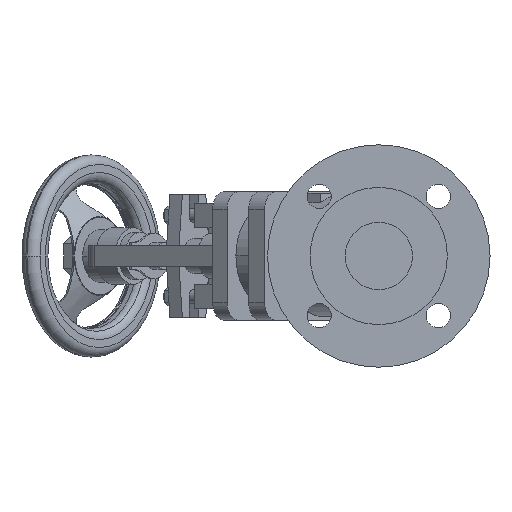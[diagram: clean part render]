
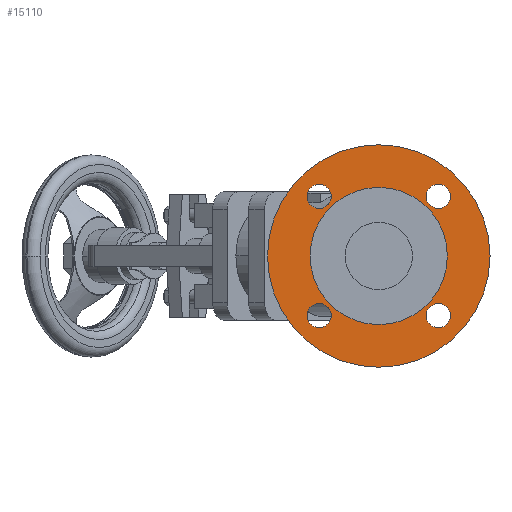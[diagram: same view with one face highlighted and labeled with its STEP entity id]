
A CAD part, left-side view. The second image highlights one B-rep face of the part: STEP entity #15110.
In plain terms, the highlighted planar face has unit normal (-1, 0, 0).
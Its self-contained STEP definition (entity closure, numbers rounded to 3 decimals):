
#3550=CARTESIAN_POINT('',(3.78,-50.89,0.));
#3560=VERTEX_POINT('',#3550);
#3590=CARTESIAN_POINT('',(3.78,0.,0.));
#3600=DIRECTION('',(-1.,0.,0.));
#3610=DIRECTION('',(0.,1.,0.));
#3620=AXIS2_PLACEMENT_3D('',#3590,#3600,#3610);
#3630=CIRCLE('',#3620,50.89);
#3640=CARTESIAN_POINT('',(3.78,50.89,0.));
#3650=VERTEX_POINT('',#3640);
#3660=EDGE_CURVE('',#3650,#3560,#3630,.T.);
#6250=CARTESIAN_POINT('',(3.78,0.,-82.5));
#6260=VERTEX_POINT('',#6250);
#6310=CARTESIAN_POINT('',(3.78,0.,0.));
#6320=DIRECTION('',(1.,0.,0.));
#6330=DIRECTION('',(0.,0.,-1.));
#6340=AXIS2_PLACEMENT_3D('',#6310,#6320,#6330);
#6350=CIRCLE('',#6340,82.5);
#6360=CARTESIAN_POINT('',(3.78,0.,82.5));
#6370=VERTEX_POINT('',#6360);
#6380=EDGE_CURVE('',#6370,#6260,#6350,.T.);
#6740=CARTESIAN_POINT('',(3.78,44.194,-53.194));
#6750=VERTEX_POINT('',#6740);
#6930=CARTESIAN_POINT('',(3.78,44.194,-35.194));
#6940=VERTEX_POINT('',#6930);
#6970=CARTESIAN_POINT('',(3.78,44.194,-44.194));
#6980=DIRECTION('',(-1.,0.,0.));
#6990=DIRECTION('',(0.,0.,-1.));
#7000=AXIS2_PLACEMENT_3D('',#6970,#6980,#6990);
#7010=CIRCLE('',#7000,9.);
#7020=EDGE_CURVE('',#6750,#6940,#7010,.T.);
#7230=CARTESIAN_POINT('',(3.78,-44.194,-53.194));
#7240=VERTEX_POINT('',#7230);
#7420=CARTESIAN_POINT('',(3.78,-44.194,-35.194));
#7430=VERTEX_POINT('',#7420);
#7460=CARTESIAN_POINT('',(3.78,-44.194,-44.194));
#7470=DIRECTION('',(-1.,0.,0.));
#7480=DIRECTION('',(0.,0.,-1.));
#7490=AXIS2_PLACEMENT_3D('',#7460,#7470,#7480);
#7500=CIRCLE('',#7490,9.);
#7510=EDGE_CURVE('',#7240,#7430,#7500,.T.);
#7720=CARTESIAN_POINT('',(3.78,-44.194,53.194));
#7730=VERTEX_POINT('',#7720);
#7910=CARTESIAN_POINT('',(3.78,-44.194,35.194));
#7920=VERTEX_POINT('',#7910);
#7950=CARTESIAN_POINT('',(3.78,-44.194,44.194));
#7960=DIRECTION('',(-1.,0.,0.));
#7970=DIRECTION('',(0.,0.,-1.));
#7980=AXIS2_PLACEMENT_3D('',#7950,#7960,#7970);
#7990=CIRCLE('',#7980,9.);
#8000=EDGE_CURVE('',#7730,#7920,#7990,.T.);
#8210=CARTESIAN_POINT('',(3.78,44.194,35.194));
#8220=VERTEX_POINT('',#8210);
#8400=CARTESIAN_POINT('',(3.78,44.194,53.194));
#8410=VERTEX_POINT('',#8400);
#8440=CARTESIAN_POINT('',(3.78,44.194,44.194));
#8450=DIRECTION('',(-1.,0.,0.));
#8460=DIRECTION('',(0.,0.,-1.));
#8470=AXIS2_PLACEMENT_3D('',#8440,#8450,#8460);
#8480=CIRCLE('',#8470,9.);
#8490=EDGE_CURVE('',#8220,#8410,#8480,.T.);
#14760=CARTESIAN_POINT('',(3.78,0.,0.));
#14770=DIRECTION('',(1.,0.,0.));
#14780=DIRECTION('',(0.,0.,-1.));
#14790=AXIS2_PLACEMENT_3D('',#14760,#14770,#14780);
#14800=PLANE('',#14790);
#14810=EDGE_CURVE('',#8410,#8220,#8480,.T.);
#14820=ORIENTED_EDGE('',*,*,#14810,.F.);
#14830=ORIENTED_EDGE('',*,*,#8490,.F.);
#14840=EDGE_LOOP('',(#14830,#14820));
#14850=FACE_BOUND('',#14840,.T.);
#14860=EDGE_CURVE('',#7920,#7730,#7990,.T.);
#14870=ORIENTED_EDGE('',*,*,#14860,.F.);
#14880=ORIENTED_EDGE('',*,*,#8000,.F.);
#14890=EDGE_LOOP('',(#14880,#14870));
#14900=FACE_BOUND('',#14890,.T.);
#14910=EDGE_CURVE('',#7430,#7240,#7500,.T.);
#14920=ORIENTED_EDGE('',*,*,#14910,.F.);
#14930=ORIENTED_EDGE('',*,*,#7510,.F.);
#14940=EDGE_LOOP('',(#14930,#14920));
#14950=FACE_BOUND('',#14940,.T.);
#14960=EDGE_CURVE('',#6940,#6750,#7010,.T.);
#14970=ORIENTED_EDGE('',*,*,#14960,.F.);
#14980=ORIENTED_EDGE('',*,*,#7020,.F.);
#14990=EDGE_LOOP('',(#14980,#14970));
#15000=FACE_BOUND('',#14990,.T.);
#15010=ORIENTED_EDGE('',*,*,#6380,.F.);
#15020=EDGE_CURVE('',#6260,#6370,#6350,.T.);
#15030=ORIENTED_EDGE('',*,*,#15020,.F.);
#15040=EDGE_LOOP('',(#15030,#15010));
#15050=FACE_OUTER_BOUND('',#15040,.T.);
#15060=EDGE_CURVE('',#3560,#3650,#3630,.T.);
#15070=ORIENTED_EDGE('',*,*,#15060,.F.);
#15080=ORIENTED_EDGE('',*,*,#3660,.F.);
#15090=EDGE_LOOP('',(#15080,#15070));
#15100=FACE_BOUND('',#15090,.T.);
#15110=ADVANCED_FACE('',(#14850,#14900,#14950,#15000,#15050,#15100),
#14800,.F.);
